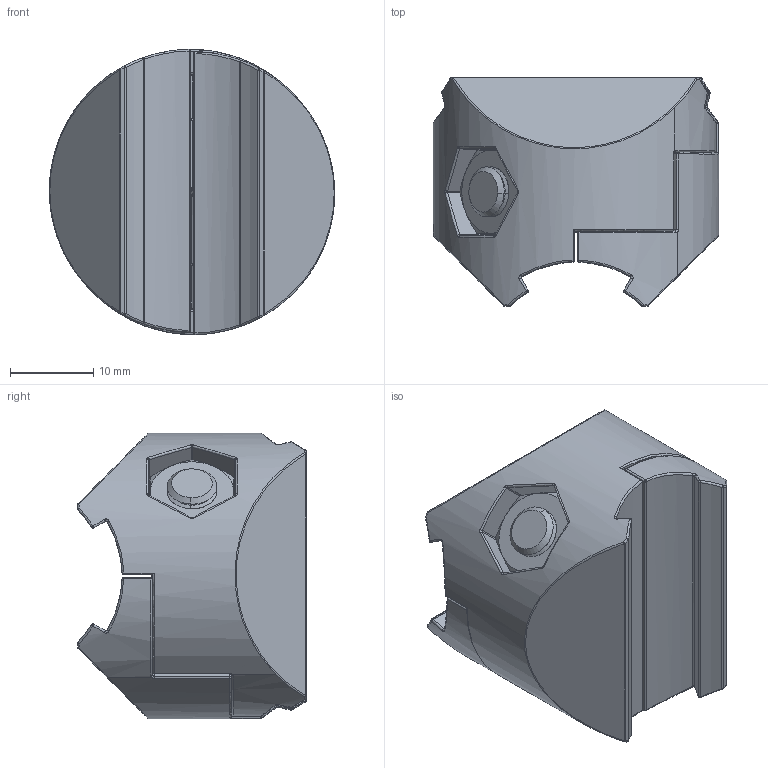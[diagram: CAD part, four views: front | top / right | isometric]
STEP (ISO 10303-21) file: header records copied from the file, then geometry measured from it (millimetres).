
FILE_DESCRIPTION (( 'STEP AP214' ), '1' );
FILE_NAME ('099rv28xs01.STEP', '2012-11-05T12:35:30', ( '' ), ( '' ), 'SwSTEP 2.0', 'SolidWorks 2012', '' );
FILE_SCHEMA (( 'AUTOMOTIVE_DESIGN' ));
Length unit declared in the file: millimetre
Products named in the file (4): 106163 - 4DIN934m6m_Hexagon Nut ISO 4032 - M6 - W - C; 106019 - 4DIN912M0625M_DIN 912 M6 x 25 --- 25N; 099rv28xr01_Standard; 099rv28xs01
Assembly tree (4 placements, depth 2):
  099rv28xs01
    099rv28xr01_Standard  x2
    106019 - 4DIN912M0625M_DIN 912 M6 x 25 --- 25N
    106163 - 4DIN934m6m_Hexagon Nut ISO 4032 - M6 - W - C
Bounding box: 34.31 x 27.5 x 34.32 mm (x, y, z)
Volume: 16458.3 mm3; surface area: 9274.6 mm2
Topology: 4 solids, 4 shells, 697 faces, 1556 edges, 811 vertices
Faces by surface type: cylinder 188, torus 136, sphere 94, cone 94, plane 93, bspline 92
Entity records: 13187 total; most frequent: CARTESIAN_POINT 3431, DIRECTION 2218, ORIENTED_EDGE 1920, AXIS2_PLACEMENT_3D 961, EDGE_CURVE 960, CIRCLE 543, VERTEX_POINT 512, EDGE_LOOP 464
